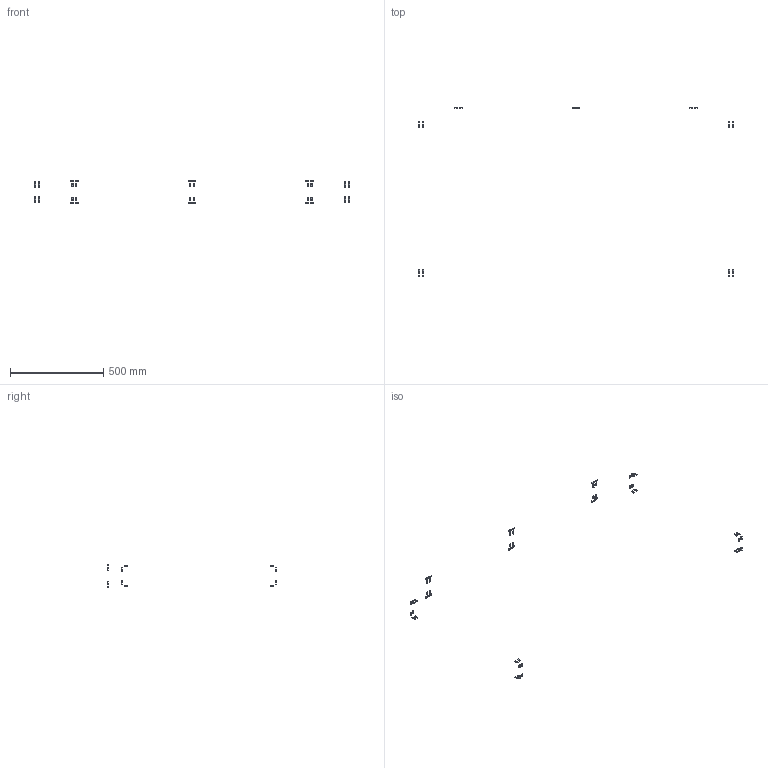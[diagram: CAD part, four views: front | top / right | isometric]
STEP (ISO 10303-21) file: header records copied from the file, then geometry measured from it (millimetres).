
FILE_DESCRIPTION(/* description */ (''),/* implementation_level */ '2;1');
FILE_NAME(/* name */ '3.frame-top#3.2#HNTPZ5-5',/* time_stamp */ '2014-12-01T20:12:03+01:00',/* author */ (''),/* organization */ (''),/* preprocessor_version */ 'ST-DEVELOPER v14',/* originating_system */ '',/* authorisation */ '');
FILE_SCHEMA (('AUTOMOTIVE_DESIGN'));
Length unit declared in the file: millimetre
Products named in the file (2): Document; nut tslot, post, M5
Assembly tree (28 placements, depth 2):
  Document
    nut tslot, post, M5  x28
Bounding box: 1688.3 x 903.8 x 128.3 mm (x, y, z)
Volume: 17641.1 mm3; surface area: 23493.3 mm2
Topology: 56 solids, 56 shells, 728 faces, 2016 edges, 1344 vertices
Faces by surface type: plane 616, bspline 112
Entity records: 27873 total; most frequent: CARTESIAN_POINT 13255, B_SPLINE_CURVE_WITH_KNOTS 2900, ORIENTED_EDGE 2088, PCURVE 2088, DEFINITIONAL_REPRESENTATION 2088, SURFACE_CURVE 1044, EDGE_CURVE 1044, VERTEX_POINT 696
